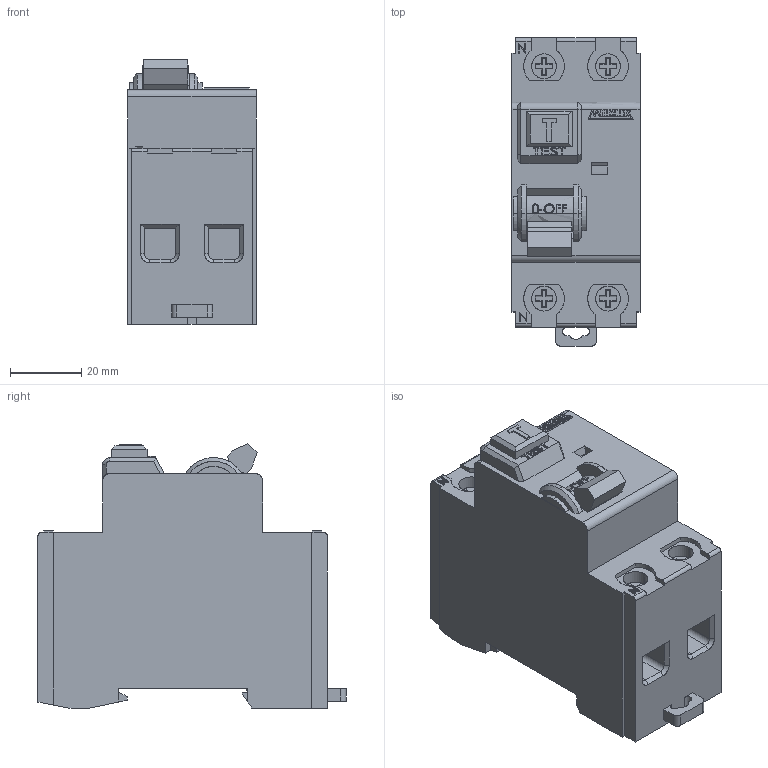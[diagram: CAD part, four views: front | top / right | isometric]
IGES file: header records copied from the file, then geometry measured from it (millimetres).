
Start section: SolidWorks IGES file using analytic representation for surfaces
Global section: file name: D:\X - Arquivos\PROEX\Empresas\P11 - METALTEX\01 - Produtos\IGES\4ª remessa\4ª etapa\DRB100-230.IGS; native system: SolidWorks 2012; preprocessor: SolidWorks 2012; author: Usuario; date: 180511.094524; units: millimetre
Bounding box: 36 x 86.6 x 74.45 mm (x, y, z)
Surface area: 24208.3 mm2 (no closed solid volume)
Topology: 0 solids, 0 shells, 509 faces, 3916 edges, 3916 vertices
Faces by surface type: bspline 433, revolution 76
